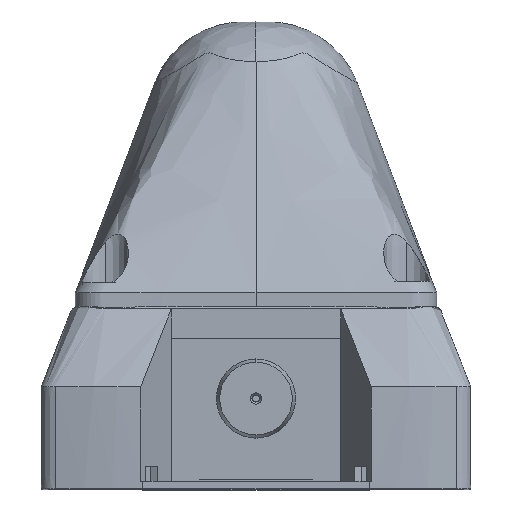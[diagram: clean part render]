
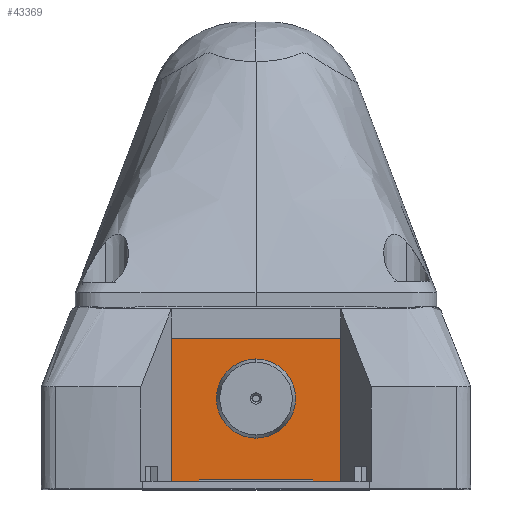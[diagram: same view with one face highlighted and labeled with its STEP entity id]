
A CAD part, top view. The second image highlights one B-rep face of the part: STEP entity #43369.
In plain terms, the highlighted planar face has unit normal (0, 0, 1).
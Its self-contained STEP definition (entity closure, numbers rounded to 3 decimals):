
#8607 = VERTEX_POINT ( 'NONE', #11658 ) ;
#8821 = VERTEX_POINT ( 'NONE', #11880 ) ;
#8949 = VERTEX_POINT ( 'NONE', #12016 ) ;
#8952 = VERTEX_POINT ( 'NONE', #12019 ) ;
#10280 = VERTEX_POINT ( 'NONE', #20028 ) ;
#10297 = VERTEX_POINT ( 'NONE', #20045 ) ;
#10309 = VERTEX_POINT ( 'NONE', #20057 ) ;
#10312 = VERTEX_POINT ( 'NONE', #20060 ) ;
#11658 = CARTESIAN_POINT ( 'NONE',  ( -15., -47.5, 67. ) ) ;
#11880 = CARTESIAN_POINT ( 'NONE',  ( 22.497, -47.997, 67. ) ) ;
#12016 = CARTESIAN_POINT ( 'NONE',  ( 15., -47.997, 67. ) ) ;
#12019 = CARTESIAN_POINT ( 'NONE',  ( 15., -47.5, 67. ) ) ;
#12572 = ORIENTED_EDGE ( 'NONE', *, *, #40305, .T. ) ;
#12573 = ORIENTED_EDGE ( 'NONE', *, *, #40318, .F. ) ;
#12574 = ORIENTED_EDGE ( 'NONE', *, *, #41968, .F. ) ;
#12575 = ORIENTED_EDGE ( 'NONE', *, *, #40303, .T. ) ;
#12589 = ORIENTED_EDGE ( 'NONE', *, *, #40307, .F. ) ;
#12591 = ORIENTED_EDGE ( 'NONE', *, *, #40395, .T. ) ;
#12593 = ORIENTED_EDGE ( 'NONE', *, *, #40368, .F. ) ;
#12615 = ORIENTED_EDGE ( 'NONE', *, *, #40320, .T. ) ;
#12616 = ORIENTED_EDGE ( 'NONE', *, *, #40451, .T. ) ;
#12619 = ORIENTED_EDGE ( 'NONE', *, *, #40313, .T. ) ;
#14119 = VERTEX_POINT ( 'NONE', #20576 ) ;
#14573 = VERTEX_POINT ( 'NONE', #20613 ) ;
#20028 = CARTESIAN_POINT ( 'NONE',  ( -15., -47.997, 67. ) ) ;
#20045 = CARTESIAN_POINT ( 'NONE',  ( -22.497, -10.003, 67. ) ) ;
#20057 = CARTESIAN_POINT ( 'NONE',  ( -22.497, -47.997, 67. ) ) ;
#20060 = CARTESIAN_POINT ( 'NONE',  ( 22.497, -10.003, 67. ) ) ;
#20576 = CARTESIAN_POINT ( 'NONE',  ( 10.497, -26., 67. ) ) ;
#20613 = CARTESIAN_POINT ( 'NONE',  ( -10.497, -26., 67. ) ) ;
#25828 = LINE ( 'NONE', #29216, #25835 ) ;
#25830 = LINE ( 'NONE', #29223, #25833 ) ;
#25833 = VECTOR ( 'NONE', #29225, 1000. ) ;
#25834 = CIRCLE ( 'NONE', #31691, 10.497 ) ;
#25835 = VECTOR ( 'NONE', #29226, 1000. ) ;
#25836 = LINE ( 'NONE', #29243, #25840 ) ;
#25837 = LINE ( 'NONE', #29221, #25846 ) ;
#25840 = VECTOR ( 'NONE', #29244, 1000. ) ;
#25841 = LINE ( 'NONE', #29247, #25844 ) ;
#25844 = VECTOR ( 'NONE', #29249, 1000. ) ;
#25846 = VECTOR ( 'NONE', #29250, 1000. ) ;
#25868 = LINE ( 'NONE', #29376, #25873 ) ;
#25873 = VECTOR ( 'NONE', #29377, 1000. ) ;
#25884 = LINE ( 'NONE', #29484, #25887 ) ;
#25887 = VECTOR ( 'NONE', #29485, 1000. ) ;
#25919 = LINE ( 'NONE', #29553, #25920 ) ;
#25920 = VECTOR ( 'NONE', #29554, 1000. ) ;
#29216 = CARTESIAN_POINT ( 'NONE',  ( 15., -47.5, 67. ) ) ;
#29221 = CARTESIAN_POINT ( 'NONE',  ( -22.497, 0., 67. ) ) ;
#29223 = CARTESIAN_POINT ( 'NONE',  ( 0., -47.997, 67. ) ) ;
#29225 = DIRECTION ( 'NONE',  ( 1., 0., 0. ) ) ;
#29226 = DIRECTION ( 'NONE',  ( 0., -1., 0. ) ) ;
#29229 = CARTESIAN_POINT ( 'NONE',  ( 0., -26., 67. ) ) ;
#29230 = DIRECTION ( 'NONE',  ( 0., 0., 1. ) ) ;
#29231 = DIRECTION ( 'NONE',  ( 1., 0., 0. ) ) ;
#29243 = CARTESIAN_POINT ( 'NONE',  ( 0., -47.997, 67. ) ) ;
#29244 = DIRECTION ( 'NONE',  ( 1., 0., 0. ) ) ;
#29247 = CARTESIAN_POINT ( 'NONE',  ( -15., -47.5, 67. ) ) ;
#29249 = DIRECTION ( 'NONE',  ( 0., -1., 0. ) ) ;
#29250 = DIRECTION ( 'NONE',  ( 0., -1., 0. ) ) ;
#29376 = CARTESIAN_POINT ( 'NONE',  ( -15., -47.5, 67. ) ) ;
#29377 = DIRECTION ( 'NONE',  ( -1., 0., 0. ) ) ;
#29484 = CARTESIAN_POINT ( 'NONE',  ( 22.497, 0., 67. ) ) ;
#29485 = DIRECTION ( 'NONE',  ( 0., 1., 0. ) ) ;
#29553 = CARTESIAN_POINT ( 'NONE',  ( 0., -10.003, 67. ) ) ;
#29554 = DIRECTION ( 'NONE',  ( -1., 0., 0. ) ) ;
#31691 = AXIS2_PLACEMENT_3D ( 'NONE', #29229, #29230, #29231 ) ;
#31976 = AXIS2_PLACEMENT_3D ( 'NONE', #36359, #36360, #36361 ) ;
#32191 = AXIS2_PLACEMENT_3D ( 'NONE', #36831, #36832, #36833 ) ;
#33352 = CIRCLE ( 'NONE', #31976, 10.497 ) ;
#33580 = FACE_BOUND ( 'NONE', #42420, .T. ) ;
#33586 = FACE_OUTER_BOUND ( 'NONE', #42411, .T. ) ;
#36359 = CARTESIAN_POINT ( 'NONE',  ( 0., -26., 67. ) ) ;
#36360 = DIRECTION ( 'NONE',  ( 0., 0., 1. ) ) ;
#36361 = DIRECTION ( 'NONE',  ( 1., 0., 0. ) ) ;
#36824 = PLANE ( 'NONE',  #32191 ) ;
#36831 = CARTESIAN_POINT ( 'NONE',  ( 0., 0., 67. ) ) ;
#36832 = DIRECTION ( 'NONE',  ( 0., 0., 1. ) ) ;
#36833 = DIRECTION ( 'NONE',  ( 1., 0., 0. ) ) ;
#40303 = EDGE_CURVE ( 'NONE', #8949, #8821, #25830, .T. ) ;
#40305 = EDGE_CURVE ( 'NONE', #8952, #8949, #25828, .T. ) ;
#40307 = EDGE_CURVE ( 'NONE', #14573, #14119, #25834, .T. ) ;
#40313 = EDGE_CURVE ( 'NONE', #10309, #10280, #25836, .T. ) ;
#40318 = EDGE_CURVE ( 'NONE', #8607, #10280, #25841, .T. ) ;
#40320 = EDGE_CURVE ( 'NONE', #10297, #10309, #25837, .T. ) ;
#40368 = EDGE_CURVE ( 'NONE', #8952, #8607, #25868, .T. ) ;
#40395 = EDGE_CURVE ( 'NONE', #8821, #10312, #25884, .T. ) ;
#40451 = EDGE_CURVE ( 'NONE', #10312, #10297, #25919, .T. ) ;
#41968 = EDGE_CURVE ( 'NONE', #14119, #14573, #33352, .T. ) ;
#42411 = EDGE_LOOP ( 'NONE', ( #12619, #12573, #12593, #12572, #12575, #12591, #12616, #12615 ) ) ;
#42420 = EDGE_LOOP ( 'NONE', ( #12589, #12574 ) ) ;
#43369 = ADVANCED_FACE ( 'NONE', ( #33580, #33586 ), #36824, .T. ) ;
